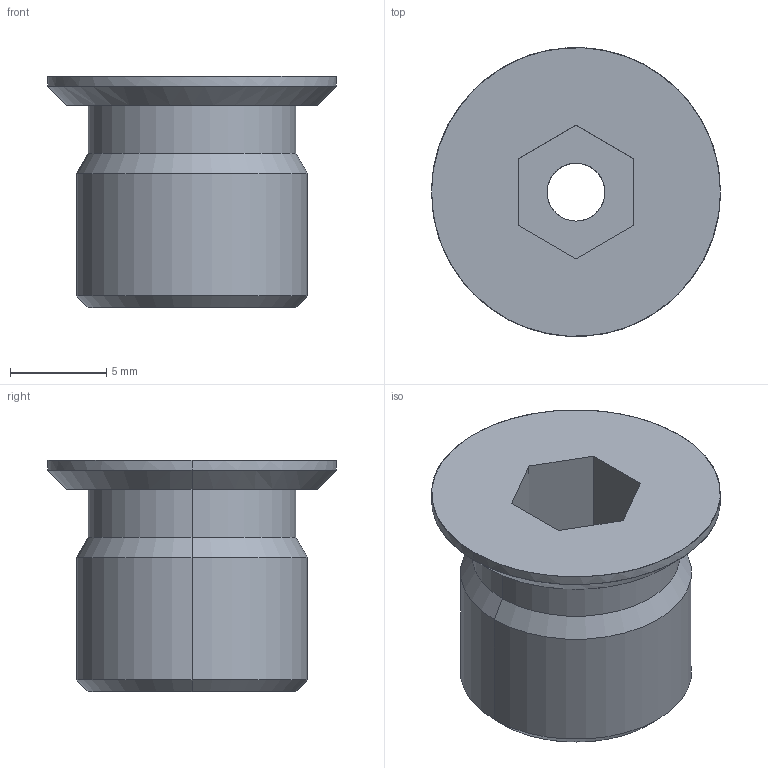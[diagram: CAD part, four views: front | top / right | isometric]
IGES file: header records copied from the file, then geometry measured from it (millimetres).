
Global section: file name: E:\UnigraphicsGraphicData\MISUMI_PRESS-PARTS\IGES\3d_mswzh12_00480_r00.igs; native system: NX V5.0; preprocessor: UGS NX IGES V5.0; author: MISUMI; date: 20110105.161528; units: millimetre
Bounding box: 15 x 15 x 12 mm (x, y, z)
Surface area: 949.9 mm2 (no closed solid volume)
Topology: 0 solids, 0 shells, 24 faces, 140 edges, 140 vertices
Faces by surface type: bspline 24
